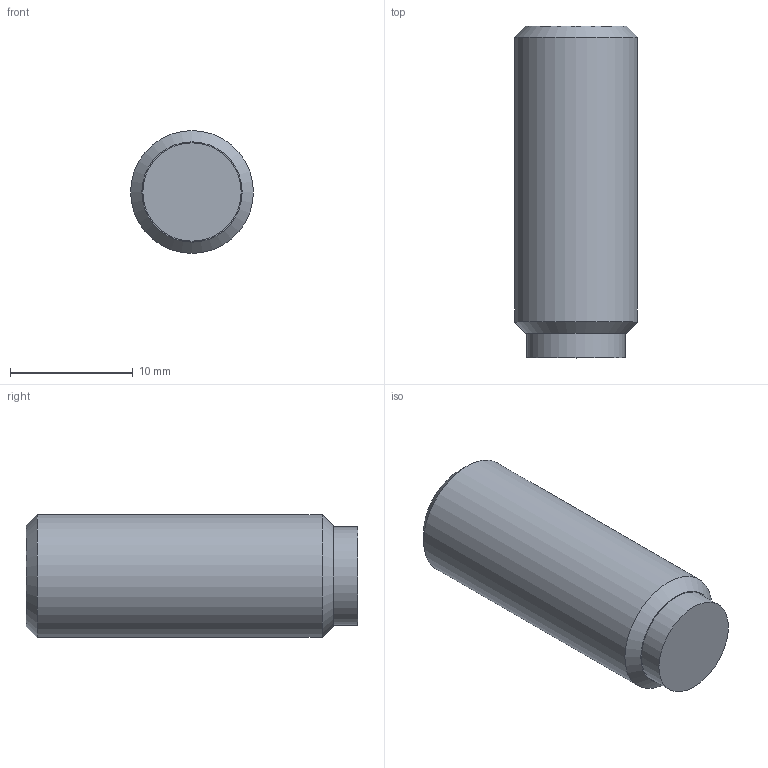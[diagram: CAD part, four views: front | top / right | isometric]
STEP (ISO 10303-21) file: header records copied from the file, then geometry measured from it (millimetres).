
FILE_DESCRIPTION( ( 'STEP AP203' ), '1' );
FILE_NAME( 'C:/Temp/Ganter_Step_05_03_2020/data/3_2/gn913_3/Grub screw GN 913.3-M10-25-MS.stp', '2020-03-13T05:35:52', ( 'License CC BY-ND 4.0' ), ( 'CADENAS' ), ' ', 'PARTsolutions', ' ' );
FILE_SCHEMA( ( 'CONFIG_CONTROL_DESIGN' ) );
Length unit declared in the file: millimetre
Products named in the file (1): _Grub screw GN 913.3-M10-25-MS
Bounding box: 10 x 27 x 10 mm (x, y, z)
Volume: 1909.2 mm3; surface area: 1060.6 mm2
Topology: 1 solids, 1 shells, 14 faces, 28 edges, 18 vertices
Faces by surface type: plane 10, cylinder 2, cone 2
Full cylindrical faces by diameter (mm): 8 x1, 10 x1
Entity records: 386 total; most frequent: DIRECTION 60, CARTESIAN_POINT 57, ORIENTED_EDGE 48, EDGE_CURVE 24, AXIS2_PLACEMENT_3D 21, EDGE_LOOP 20, VERTEX_POINT 18, LINE 18
